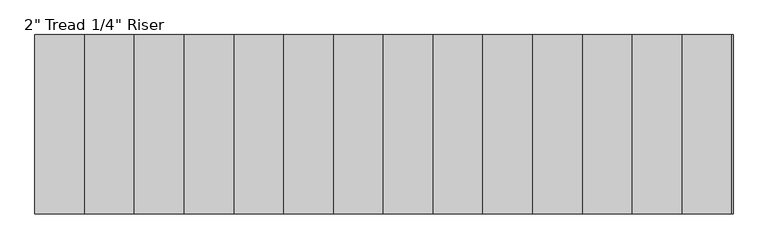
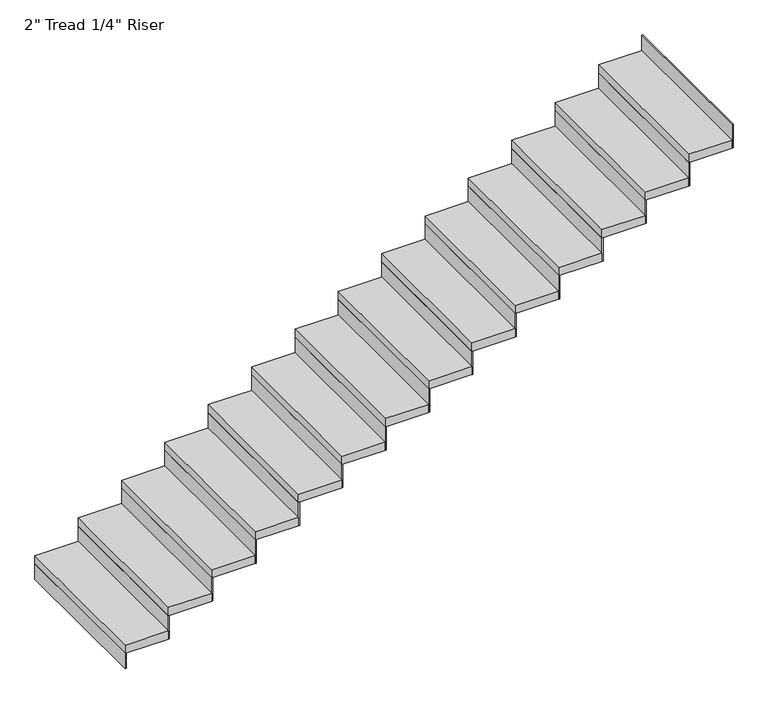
"""IFC4 building model written with IfcOpenShell, lengths in millimetres: stair flight geometry."""

from ifc_helpers import new_model, si_unit, frame, origin, origin_with_axes, place, context, project, spatial, polyline, outline, extrude, source, transform, mapped, element, save


def stair_flight_e243f775(model_context):
    return source(origin(), model_context, "Body", "SweptSolid", [
        extrude(outline(polyline([(12662.9535021, 36015.7361774), (12656.6035021, 36015.7361774), (12656.6035021, 36930.1361774), (12662.9535021, 36930.1361774), (12662.9535021, 36015.7361774)])), origin_with_axes(), (0.0, 0.0, 1.0), 94.3428571),
        extrude(outline(polyline([(12910.6035021, 36930.1361774), (12910.6035021, 36015.7361774), (12656.6035021, 36015.7361774), (12656.6035021, 36930.1361774), (12910.6035021, 36930.1361774)])), frame((0.0, 0.0, 94.3428571), z_axis=(0.0, 0.0, 1.0), x_axis=(1.0, 0.0, 0.0)), (0.0, 0.0, 1.0), 50.8),
        extrude(outline(polyline([(12916.9535021, 36015.7361774), (12910.6035021, 36015.7361774), (12910.6035021, 36930.1361774), (12916.9535021, 36930.1361774), (12916.9535021, 36015.7361774)])), frame((0.0, 0.0, 94.3428571), z_axis=(0.0, 0.0, 1.0), x_axis=(1.0, 0.0, 0.0)), (0.0, 0.0, 1.0), 145.1428571),
        extrude(outline(polyline([(13164.6035021, 36930.1361774), (13164.6035021, 36015.7361774), (12910.6035021, 36015.7361774), (12910.6035021, 36930.1361774), (13164.6035021, 36930.1361774)])), frame((0.0, 0.0, 239.4857143), z_axis=(0.0, 0.0, 1.0), x_axis=(1.0, 0.0, 0.0)), (0.0, 0.0, 1.0), 50.8),
        extrude(outline(polyline([(13170.9535021, 36015.7361774), (13164.6035021, 36015.7361774), (13164.6035021, 36930.1361774), (13170.9535021, 36930.1361774), (13170.9535021, 36015.7361774)])), frame((0.0, 0.0, 239.4857143), z_axis=(0.0, 0.0, 1.0), x_axis=(1.0, 0.0, 0.0)), (0.0, 0.0, 1.0), 145.1428571),
        extrude(outline(polyline([(13418.6035021, 36930.1361774), (13418.6035021, 36015.7361774), (13164.6035021, 36015.7361774), (13164.6035021, 36930.1361774), (13418.6035021, 36930.1361774)])), frame((0.0, 0.0, 384.6285714), z_axis=(0.0, 0.0, 1.0), x_axis=(1.0, 0.0, 0.0)), (0.0, 0.0, 1.0), 50.8),
        extrude(outline(polyline([(13424.9535021, 36015.7361774), (13418.6035021, 36015.7361774), (13418.6035021, 36930.1361774), (13424.9535021, 36930.1361774), (13424.9535021, 36015.7361774)])), frame((0.0, 0.0, 384.6285714), z_axis=(0.0, 0.0, 1.0), x_axis=(1.0, 0.0, 0.0)), (0.0, 0.0, 1.0), 145.1428571),
        extrude(outline(polyline([(13672.6035021, 36930.1361774), (13672.6035021, 36015.7361774), (13418.6035021, 36015.7361774), (13418.6035021, 36930.1361774), (13672.6035021, 36930.1361774)])), frame((0.0, 0.0, 529.7714286), z_axis=(0.0, 0.0, 1.0), x_axis=(1.0, 0.0, 0.0)), (0.0, 0.0, 1.0), 50.8),
        extrude(outline(polyline([(13678.9535021, 36015.7361774), (13672.6035021, 36015.7361774), (13672.6035021, 36930.1361774), (13678.9535021, 36930.1361774), (13678.9535021, 36015.7361774)])), frame((0.0, 0.0, 529.7714286), z_axis=(0.0, 0.0, 1.0), x_axis=(1.0, 0.0, 0.0)), (0.0, 0.0, 1.0), 145.1428571),
        extrude(outline(polyline([(13926.6035021, 36930.1361774), (13926.6035021, 36015.7361774), (13672.6035021, 36015.7361774), (13672.6035021, 36930.1361774), (13926.6035021, 36930.1361774)])), frame((0.0, 0.0, 674.9142857), z_axis=(0.0, 0.0, 1.0), x_axis=(1.0, 0.0, 0.0)), (0.0, 0.0, 1.0), 50.8),
        extrude(outline(polyline([(13932.9535021, 36015.7361774), (13926.6035021, 36015.7361774), (13926.6035021, 36930.1361774), (13932.9535021, 36930.1361774), (13932.9535021, 36015.7361774)])), frame((0.0, 0.0, 674.9142857), z_axis=(0.0, 0.0, 1.0), x_axis=(1.0, 0.0, 0.0)), (0.0, 0.0, 1.0), 145.1428571),
        extrude(outline(polyline([(14180.6035021, 36930.1361774), (14180.6035021, 36015.7361774), (13926.6035021, 36015.7361774), (13926.6035021, 36930.1361774), (14180.6035021, 36930.1361774)])), frame((0.0, 0.0, 820.0571429), z_axis=(0.0, 0.0, 1.0), x_axis=(1.0, 0.0, 0.0)), (0.0, 0.0, 1.0), 50.8),
        extrude(outline(polyline([(14186.9535021, 36015.7361774), (14180.6035021, 36015.7361774), (14180.6035021, 36930.1361774), (14186.9535021, 36930.1361774), (14186.9535021, 36015.7361774)])), frame((0.0, 0.0, 820.0571429), z_axis=(0.0, 0.0, 1.0), x_axis=(1.0, 0.0, 0.0)), (0.0, 0.0, 1.0), 145.1428571),
        extrude(outline(polyline([(14434.6035021, 36930.1361774), (14434.6035021, 36015.7361774), (14180.6035021, 36015.7361774), (14180.6035021, 36930.1361774), (14434.6035021, 36930.1361774)])), frame((0.0, 0.0, 965.2), z_axis=(0.0, 0.0, 1.0), x_axis=(1.0, 0.0, 0.0)), (0.0, 0.0, 1.0), 50.8),
        extrude(outline(polyline([(14440.9535021, 36015.7361774), (14434.6035021, 36015.7361774), (14434.6035021, 36930.1361774), (14440.9535021, 36930.1361774), (14440.9535021, 36015.7361774)])), frame((0.0, 0.0, 965.2), z_axis=(0.0, 0.0, 1.0), x_axis=(1.0, 0.0, 0.0)), (0.0, 0.0, 1.0), 145.1428571),
        extrude(outline(polyline([(14688.6035021, 36930.1361774), (14688.6035021, 36015.7361774), (14434.6035021, 36015.7361774), (14434.6035021, 36930.1361774), (14688.6035021, 36930.1361774)])), frame((0.0, 0.0, 1110.3428571), z_axis=(0.0, 0.0, 1.0), x_axis=(1.0, 0.0, 0.0)), (0.0, 0.0, 1.0), 50.8),
        extrude(outline(polyline([(14694.9535021, 36015.7361774), (14688.6035021, 36015.7361774), (14688.6035021, 36930.1361774), (14694.9535021, 36930.1361774), (14694.9535021, 36015.7361774)])), frame((0.0, 0.0, 1110.3428571), z_axis=(0.0, 0.0, 1.0), x_axis=(1.0, 0.0, 0.0)), (0.0, 0.0, 1.0), 145.1428571),
        extrude(outline(polyline([(14942.6035021, 36930.1361774), (14942.6035021, 36015.7361774), (14688.6035021, 36015.7361774), (14688.6035021, 36930.1361774), (14942.6035021, 36930.1361774)])), frame((0.0, 0.0, 1255.4857143), z_axis=(0.0, 0.0, 1.0), x_axis=(1.0, 0.0, 0.0)), (0.0, 0.0, 1.0), 50.8),
        extrude(outline(polyline([(14948.9535021, 36015.7361774), (14942.6035021, 36015.7361774), (14942.6035021, 36930.1361774), (14948.9535021, 36930.1361774), (14948.9535021, 36015.7361774)])), frame((0.0, 0.0, 1255.4857143), z_axis=(0.0, 0.0, 1.0), x_axis=(1.0, 0.0, 0.0)), (0.0, 0.0, 1.0), 145.1428571),
        extrude(outline(polyline([(15196.6035021, 36930.1361774), (15196.6035021, 36015.7361774), (14942.6035021, 36015.7361774), (14942.6035021, 36930.1361774), (15196.6035021, 36930.1361774)])), frame((0.0, 0.0, 1400.6285714), z_axis=(0.0, 0.0, 1.0), x_axis=(1.0, 0.0, 0.0)), (0.0, 0.0, 1.0), 50.8),
        extrude(outline(polyline([(15202.9535021, 36015.7361774), (15196.6035021, 36015.7361774), (15196.6035021, 36930.1361774), (15202.9535021, 36930.1361774), (15202.9535021, 36015.7361774)])), frame((0.0, 0.0, 1400.6285714), z_axis=(0.0, 0.0, 1.0), x_axis=(1.0, 0.0, 0.0)), (0.0, 0.0, 1.0), 145.1428571),
        extrude(outline(polyline([(15450.6035021, 36930.1361774), (15450.6035021, 36015.7361774), (15196.6035021, 36015.7361774), (15196.6035021, 36930.1361774), (15450.6035021, 36930.1361774)])), frame((0.0, 0.0, 1545.7714286), z_axis=(0.0, 0.0, 1.0), x_axis=(1.0, 0.0, 0.0)), (0.0, 0.0, 1.0), 50.8),
        extrude(outline(polyline([(15456.9535021, 36015.7361774), (15450.6035021, 36015.7361774), (15450.6035021, 36930.1361774), (15456.9535021, 36930.1361774), (15456.9535021, 36015.7361774)])), frame((0.0, 0.0, 1545.7714286), z_axis=(0.0, 0.0, 1.0), x_axis=(1.0, 0.0, 0.0)), (0.0, 0.0, 1.0), 145.1428571),
        extrude(outline(polyline([(15704.6035021, 36930.1361774), (15704.6035021, 36015.7361774), (15450.6035021, 36015.7361774), (15450.6035021, 36930.1361774), (15704.6035021, 36930.1361774)])), frame((0.0, 0.0, 1690.9142857), z_axis=(0.0, 0.0, 1.0), x_axis=(1.0, 0.0, 0.0)), (0.0, 0.0, 1.0), 50.8),
        extrude(outline(polyline([(15710.9535021, 36015.7361774), (15704.6035021, 36015.7361774), (15704.6035021, 36930.1361774), (15710.9535021, 36930.1361774), (15710.9535021, 36015.7361774)])), frame((0.0, 0.0, 1690.9142857), z_axis=(0.0, 0.0, 1.0), x_axis=(1.0, 0.0, 0.0)), (0.0, 0.0, 1.0), 145.1428571),
        extrude(outline(polyline([(15958.6035021, 36930.1361774), (15958.6035021, 36015.7361774), (15704.6035021, 36015.7361774), (15704.6035021, 36930.1361774), (15958.6035021, 36930.1361774)])), frame((0.0, 0.0, 1836.0571429), z_axis=(0.0, 0.0, 1.0), x_axis=(1.0, 0.0, 0.0)), (0.0, 0.0, 1.0), 50.8),
        extrude(outline(polyline([(15964.9535021, 36015.7361774), (15958.6035021, 36015.7361774), (15958.6035021, 36930.1361774), (15964.9535021, 36930.1361774), (15964.9535021, 36015.7361774)])), frame((0.0, 0.0, 1836.0571429), z_axis=(0.0, 0.0, 1.0), x_axis=(1.0, 0.0, 0.0)), (0.0, 0.0, 1.0), 145.1428571),
        extrude(outline(polyline([(16218.9535021, 36015.7361774), (16212.6035021, 36015.7361774), (16212.6035021, 36930.1361774), (16218.9535021, 36930.1361774), (16218.9535021, 36015.7361774)])), frame((0.0, 0.0, 1981.2), z_axis=(0.0, 0.0, 1.0), x_axis=(1.0, 0.0, 0.0)), (0.0, 0.0, 1.0), 145.1428571),
        extrude(outline(polyline([(16212.6035021, 36930.1361774), (16212.6035021, 36015.7361774), (15958.6035021, 36015.7361774), (15958.6035021, 36930.1361774), (16212.6035021, 36930.1361774)])), frame((0.0, 0.0, 1981.2), z_axis=(0.0, 0.0, 1.0), x_axis=(1.0, 0.0, 0.0)), (0.0, 0.0, 1.0), 50.8),
    ])


if __name__ == "__main__":
    model = new_model("IFC4")
    model_context = context("Model", 3, world=origin())
    ifc_project = project(units=[si_unit("LENGTHUNIT", "METRE", prefix="MILLI")], contexts=[model_context])
    site = spatial("IfcSite", under=ifc_project)
    building = spatial("IfcBuilding", under=site)
    placement = place(None, origin())
    stair_flight_shape = stair_flight_e243f775(model_context)
    element("IfcStairFlight", 1, ObjectType="2\" Tread 1/4\" Riser", at=placement, inside=building, context=model_context, shape_type="MappedRepresentation", body=[
        mapped(stair_flight_shape, transform((0.0, 0.0, 0.0), x_axis=(1.0, 0.0, 0.0), y_axis=(0.0, 1.0, 0.0), z_axis=(0.0, 0.0, 1.0))),
    ])
    save(model, "model.ifc")
